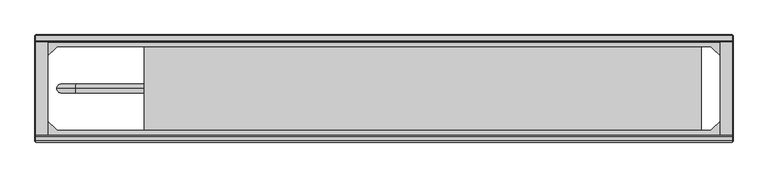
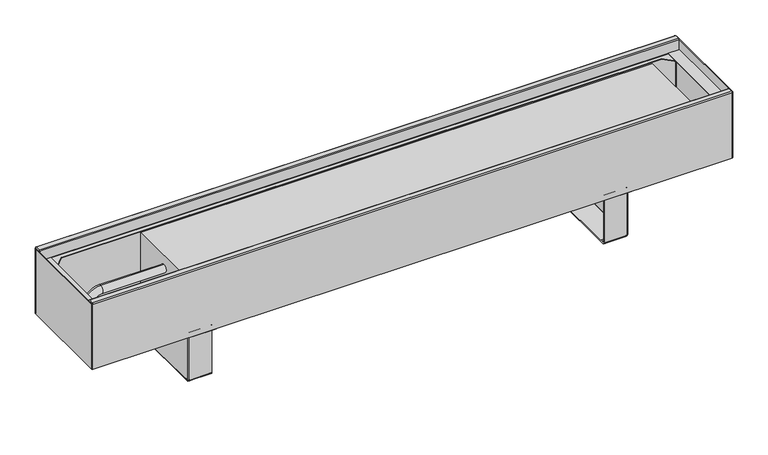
"""IFC4 building model written with IfcOpenShell, lengths in millimetres: proxy geometry, TECHNO_Конвектор напольный_Vita KPZ 185 : KPZ 185-130."""

from ifc_helpers import new_model, si_unit, point, frame, origin, place, context, project, spatial, polyline, circle_curve, ellipse_curve, trimmed, outline, extrude, source, transform, mapped, element, save
from ifc_brep_helpers import plane_surface, cylinder_surface, revolved_surface, advanced_brep


def mechanical_equipment_933cd87b(model_context):
    return source(origin(), model_context, "Body", "SolidModel", [
        advanced_brep(
        [(409.7, -116.8, 1.5), (409.7, -114.5, 3.8), (409.7, -114.5, 4.9), (409.7, -116.0, 4.9), (409.7, -116.0, 3.8), (409.7, -116.8, 3.0), (409.7, -124.5, 3.0), (409.7, -124.5, 1.5), (409.7, -117.6, 1.5), (409.7, -114.5, 97.7), (409.7, -113.7, 98.5), (409.7, -101.0, 98.5), (409.7, -101.0, 100.0), (409.7, -113.7, 100.0), (409.7, -116.0, 97.7), (409.7, -116.0, 95.5), (409.7, -114.5, 95.5), (409.7, -270.5, 3.8), (409.7, -268.2, 1.5), (409.7, -267.4, 1.5), (409.7, -260.5, 1.5), (409.7, -260.5, 3.0), (409.7, -268.2, 3.0), (409.7, -269.0, 3.8), (409.7, -269.0, 4.9), (409.7, -270.5, 4.9), (409.7, -269.0, 97.7), (409.7, -271.3, 100.0), (409.7, -284.0, 100.0), (409.7, -284.0, 98.5), (409.7, -271.3, 98.5), (409.7, -270.5, 97.7), (409.7, -270.5, 95.5), (409.7, -269.0, 95.5), (367.0, -270.5, 97.7), (367.0, -271.3, 98.5), (367.0, -284.0, 98.5), (367.0, -284.0, 100.0), (367.0, -271.3, 100.0), (367.0, -269.0, 97.7), (367.0, -269.0, 3.8), (367.0, -268.2, 3.0), (367.0, -260.5, 3.0), (367.0, -260.5, 1.5), (367.0, -124.5, 1.5), (367.0, -124.5, 3.0), (367.0, -116.8, 3.0), (367.0, -116.0, 3.8), (367.0, -116.0, 97.7), (367.0, -113.7, 100.0), (367.0, -101.0, 100.0), (367.0, -101.0, 98.5), (367.0, -113.7, 98.5), (367.0, -114.5, 97.7), (367.0, -114.5, 3.8), (367.0, -116.8, 1.5), (367.0, -117.6, 1.5), (367.0, -117.6, 0.0), (367.0, -267.4, 0.0), (367.0, -267.4, 1.5), (367.0, -268.2, 1.5), (367.0, -270.5, 3.8), (410.5, -116.8, 95.5), (410.5, -268.2, 95.5), (412.0, -268.2, 95.5), (412.0, -116.8, 95.5), (412.0, -116.8, 4.9), (412.0, -117.6, 4.9), (410.5, -117.6, 4.9), (410.5, -116.8, 4.9), (410.5, -268.2, 4.9), (410.5, -267.4, 4.9), (412.0, -267.4, 4.9), (412.0, -268.2, 4.9), (410.5, -117.6, 2.3), (410.5, -267.4, 2.3), (411.9999999, -267.4, 2.3), (412.0, -117.6, 2.3), (409.7, -117.6, 0.0), (409.7, -267.4, 0.0)],
        [
            (0, 1, circle_curve(frame((409.7, -116.8, 3.8), z_axis=(1.0, 0.0, 0.0), x_axis=(0.0, -1.0, 0.0)), 2.3)),
            (1, 2),
            (2, 3),
            (3, 4),
            (4, 5, circle_curve(frame((409.7, -116.8, 3.8), z_axis=(-1.0, 0.0, 0.0), x_axis=(0.0, -1.0, 0.0)), 0.8)),
            (5, 6),
            (6, 7),
            (7, 8),
            (8, 0),
            (9, 10, circle_curve(frame((409.7, -113.7, 97.7), z_axis=(-1.0, 0.0, 0.0), x_axis=(0.0, -1.0, 0.0)), 0.8)),
            (10, 11),
            (11, 12),
            (12, 13),
            (13, 14, circle_curve(frame((409.7, -113.7, 97.7), z_axis=(1.0, 0.0, 0.0), x_axis=(0.0, -1.0, 0.0)), 2.3)),
            (14, 15),
            (15, 16),
            (16, 9),
            (17, 18, circle_curve(frame((409.7, -268.2, 3.8), z_axis=(1.0, 0.0, 0.0), x_axis=(0.0, -1.0, 0.0)), 2.3)),
            (18, 19),
            (19, 20),
            (20, 21),
            (21, 22),
            (22, 23, circle_curve(frame((409.7, -268.2, 3.8), z_axis=(-1.0, 0.0, 0.0), x_axis=(0.0, -1.0, 0.0)), 0.8)),
            (23, 24),
            (24, 25),
            (25, 17),
            (26, 27, circle_curve(frame((409.7, -271.3, 97.7), z_axis=(1.0, 0.0, 0.0), x_axis=(0.0, -1.0, 0.0)), 2.3)),
            (27, 28),
            (28, 29),
            (29, 30),
            (30, 31, circle_curve(frame((409.7, -271.3, 97.7), z_axis=(-1.0, 0.0, 0.0), x_axis=(0.0, -1.0, 0.0)), 0.8)),
            (31, 32),
            (32, 33),
            (33, 26),
            (34, 35, circle_curve(frame((367.0, -271.3, 97.7), z_axis=(1.0, 0.0, 0.0), x_axis=(0.0, -1.0, 0.0)), 0.8)),
            (35, 36),
            (36, 37),
            (37, 38),
            (38, 39, circle_curve(frame((367.0, -271.3, 97.7), z_axis=(-1.0, 0.0, 0.0), x_axis=(0.0, -1.0, 0.0)), 2.3)),
            (39, 40),
            (40, 41, circle_curve(frame((367.0, -268.2, 3.8), z_axis=(1.0, 0.0, 0.0), x_axis=(0.0, -1.0, 0.0)), 0.8)),
            (41, 42),
            (42, 43),
            (43, 44),
            (44, 45),
            (45, 46),
            (46, 47, circle_curve(frame((367.0, -116.8, 3.8), z_axis=(1.0, 0.0, 0.0), x_axis=(0.0, -1.0, 0.0)), 0.8)),
            (47, 48),
            (48, 49, circle_curve(frame((367.0, -113.7, 97.7), z_axis=(-1.0, 0.0, 0.0), x_axis=(0.0, -1.0, 0.0)), 2.3)),
            (49, 50),
            (50, 51),
            (51, 52),
            (52, 53, circle_curve(frame((367.0, -113.7, 97.7), z_axis=(1.0, 0.0, 0.0), x_axis=(0.0, -1.0, 0.0)), 0.8)),
            (53, 54),
            (54, 55, circle_curve(frame((367.0, -116.8, 3.8), z_axis=(-1.0, 0.0, 0.0), x_axis=(0.0, -1.0, 0.0)), 2.3)),
            (55, 56),
            (56, 57),
            (57, 58),
            (58, 59),
            (59, 60),
            (60, 61, circle_curve(frame((367.0, -268.2, 3.8), z_axis=(-1.0, 0.0, 0.0), x_axis=(0.0, -1.0, 0.0)), 2.3)),
            (61, 34),
            (30, 35),
            (34, 31),
            (29, 36),
            (28, 37),
            (27, 38),
            (26, 39),
            (33, 24),
            (23, 40),
            (22, 41),
            (5, 46),
            (45, 6),
            (4, 47),
            (3, 15),
            (14, 48),
            (13, 49),
            (12, 50),
            (11, 51),
            (10, 52),
            (9, 53),
            (16, 2),
            (1, 54),
            (0, 55),
            (8, 56),
            (17, 61),
            (60, 18),
            (25, 32),
            (21, 42),
            (20, 43),
            (59, 19),
            (44, 7),
            (15, 62, circle_curve(frame((409.7, -116.8, 95.5), z_axis=(0.0, 0.0, -1.0), x_axis=(-1.0, 0.0, 0.0)), 0.8)),
            (62, 63),
            (63, 33, circle_curve(frame((409.7, -268.2, 95.5), z_axis=(0.0, 0.0, -1.0), x_axis=(-1.0, 0.0, 0.0)), 0.8)),
            (32, 64, circle_curve(frame((409.7, -268.2, 95.5), z_axis=(0.0, 0.0, 1.0), x_axis=(-1.0, 0.0, 0.0)), 2.3)),
            (64, 65),
            (65, 16, circle_curve(frame((409.7, -116.8, 95.5), z_axis=(0.0, 0.0, 1.0), x_axis=(-1.0, 0.0, 0.0)), 2.3)),
            (2, 66, circle_curve(frame((409.7, -116.8, 4.9), z_axis=(0.0, 0.0, -1.0), x_axis=(-1.0, 0.0, 0.0)), 2.3)),
            (66, 67),
            (67, 68),
            (68, 69),
            (69, 3, circle_curve(frame((409.7, -116.8, 4.9), z_axis=(0.0, 0.0, 1.0), x_axis=(-1.0, 0.0, 0.0)), 0.8)),
            (24, 70, circle_curve(frame((409.7, -268.2, 4.9), z_axis=(0.0, 0.0, 1.0), x_axis=(-1.0, 0.0, 0.0)), 0.8)),
            (70, 71),
            (71, 72),
            (72, 73),
            (73, 25, circle_curve(frame((409.7, -268.2, 4.9), z_axis=(0.0, 0.0, -1.0), x_axis=(-1.0, 0.0, 0.0)), 2.3)),
            (69, 62),
            (68, 74),
            (74, 75),
            (75, 71),
            (70, 63),
            (64, 73),
            (72, 76),
            (76, 77),
            (77, 67),
            (66, 65),
            (8, 74, circle_curve(frame((409.7, -117.6, 2.3), z_axis=(0.0, -1.0, 0.0), x_axis=(-1.0, 0.0, 0.0)), 0.8)),
            (77, 78, circle_curve(frame((409.7, -117.6, 2.3), z_axis=(0.0, 1.0, 0.0), x_axis=(-1.0, 0.0, 0.0)), 2.3)),
            (78, 57),
            (58, 79),
            (79, 76, circle_curve(frame((409.7, -267.4, 2.3), z_axis=(0.0, -1.0, 0.0), x_axis=(-1.0, 0.0, 0.0)), 2.3)),
            (75, 19, circle_curve(frame((409.7, -267.4, 2.3), z_axis=(0.0, 1.0, 0.0), x_axis=(-1.0, 0.0, 0.0)), 0.8)),
            (20, 7),
            (79, 78),
        ],
        [
            plane_surface(frame((409.7, -272.1, 97.7), z_axis=(1.0, 0.0, 0.0), x_axis=(0.0, 0.0, 1.0))),
            plane_surface(frame((367.0, -272.1, 97.7), z_axis=(-1.0, 0.0, 0.0), x_axis=(0.0, 0.0, -1.0))),
            revolved_surface(polyline([(409.7, -272.1, 97.7), (367.0, -272.1, 97.7)]), (409.7, -271.3, 97.7), (1.0, 0.0, 0.0)),
            plane_surface(frame((367.0, -271.3, 98.5), z_axis=(0.0, 0.0, -1.0), x_axis=(1.0, 0.0, 0.0))),
            plane_surface(frame((367.0, -284.0, 98.5), z_axis=(0.0, -1.0, 0.0), x_axis=(1.0, 0.0, 0.0))),
            plane_surface(frame((367.0, -284.0, 100.0), z_axis=(0.0, 0.0, 1.0), x_axis=(1.0, 0.0, 0.0))),
            cylinder_surface(frame((409.7, -271.3, 97.7), z_axis=(-1.0, 0.0, 0.0), x_axis=(0.0, -1.0, 0.0)), 2.3),
            plane_surface(frame((367.0, -269.0, 97.7), z_axis=(0.0, 1.0, 3.692083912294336e-12), x_axis=(1.0, 0.0, 0.0))),
            revolved_surface(polyline([(409.7, -269.0, 3.8), (367.0, -269.0, 3.8)]), (409.7, -268.2, 3.8), (1.0, 0.0, 0.0)),
            plane_surface(frame((367.0, -124.5, 3.0), z_axis=(0.0, 0.0, 1.0), x_axis=(1.0, 0.0, 0.0))),
            revolved_surface(polyline([(409.7, -117.6, 3.8), (367.0, -117.6, 3.8)]), (412.0, -116.8, 3.8), (1.0, 0.0, 0.0)),
            plane_surface(frame((367.0, -116.0, 3.8), z_axis=(0.0, -1.0, 0.0), x_axis=(1.0, 0.0, 0.0))),
            cylinder_surface(frame((412.0, -113.7, 97.7), z_axis=(-1.0, 0.0, 0.0), x_axis=(0.0, -1.0, 0.0)), 2.3),
            plane_surface(frame((367.0, -113.7, 100.0), z_axis=(0.0, 0.0, 1.0), x_axis=(1.0, 0.0, 0.0))),
            plane_surface(frame((367.0, -101.0, 100.0), z_axis=(0.0, 1.0, 0.0), x_axis=(1.0, 0.0, 0.0))),
            plane_surface(frame((367.0, -101.0, 98.5), z_axis=(0.0, 0.0, -1.0), x_axis=(1.0, 0.0, 0.0))),
            revolved_surface(polyline([(409.7, -114.5, 97.7), (367.0, -114.5, 97.7)]), (412.0, -113.7, 97.7), (1.0, 0.0, 0.0)),
            plane_surface(frame((367.0, -114.5, 97.7), z_axis=(0.0, 1.0, 0.0), x_axis=(1.0, 0.0, 0.0))),
            cylinder_surface(frame((412.0, -116.8, 3.8), z_axis=(-1.0, 0.0, 0.0), x_axis=(0.0, -1.0, 0.0)), 2.3),
            plane_surface(frame((367.0, -116.8, 1.5), z_axis=(0.0, 0.0, -1.0), x_axis=(1.0, 0.0, 0.0))),
            cylinder_surface(frame((409.7, -268.2, 3.8), z_axis=(-1.0, 0.0, 0.0), x_axis=(0.0, -1.0, 0.0)), 2.3),
            plane_surface(frame((367.0, -270.5, 3.8), z_axis=(0.0, -1.0, 0.0), x_axis=(1.0, 0.0, 0.0))),
            plane_surface(frame((367.0, -268.2, 3.0), z_axis=(0.0, 0.0, 1.0), x_axis=(1.0, 0.0, 0.0))),
            plane_surface(frame((367.0, -260.5, 3.0), z_axis=(0.0, 1.0, 0.0), x_axis=(1.0, 0.0, 0.0))),
            plane_surface(frame((367.0, -260.5, 1.5), z_axis=(0.0, 0.0, -1.0), x_axis=(1.0, 0.0, 0.0))),
            plane_surface(frame((367.0, -124.5, 1.5), z_axis=(0.0, -1.0, 0.0), x_axis=(1.0, 0.0, 0.0))),
            plane_surface(frame((409.7, -116.0, 95.5), z_axis=(0.0, 0.0, 1.0), x_axis=(0.0, -1.0, 0.0))),
            plane_surface(frame((409.7, -116.0, 4.9), z_axis=(0.0, 0.0, -1.0), x_axis=(0.0, 1.0, 0.0))),
            revolved_surface(polyline([(408.9, -116.8, 4.9), (408.9, -116.8, 95.5)]), (409.7, -116.8, 4.9), (0.0, 0.0, -1.0)),
            plane_surface(frame((410.5, -116.8, 95.5), z_axis=(-1.0, 0.0, 0.0), x_axis=(0.0, 0.0, -1.0))),
            plane_surface(frame((412.0, -117.6, 95.5), z_axis=(1.0, -4.322665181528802e-10, 0.0), x_axis=(0.0, 0.0, -1.0))),
            cylinder_surface(frame((409.7, -116.8, 4.9), z_axis=(0.0, 0.0, 1.0), x_axis=(-1.0, 0.0, 0.0)), 2.3),
            cylinder_surface(frame((409.7, -268.2, 0.0), z_axis=(0.0, 0.0, 1.0), x_axis=(-1.0, 0.0, 0.0)), 2.3),
            revolved_surface(polyline([(408.9, -268.2, 4.9), (408.9, -268.2, 95.5)]), (409.7, -268.2, 0.0), (0.0, 0.0, -1.0)),
            plane_surface(frame((367.0, -117.6, 1.5), z_axis=(0.0, 1.0, 0.0), x_axis=(0.0, 0.0, 1.0))),
            plane_surface(frame((367.0, -267.4, 1.5), z_axis=(0.0, -1.0, 0.0), x_axis=(0.0, 0.0, -1.0))),
            plane_surface(frame((367.0, -117.6, 1.5), z_axis=(0.0, 0.0, 1.0), x_axis=(0.0, -1.0, 0.0))),
            revolved_surface(polyline([(408.9, -267.4, 2.3), (408.9, -117.6, 2.3)]), (409.7, -267.4, 2.3), (0.0, -1.0, 0.0)),
            cylinder_surface(frame((409.7, -267.4, 2.3), z_axis=(0.0, 1.0, 0.0), x_axis=(-1.0, 0.0, 0.0)), 2.3),
            plane_surface(frame((409.7, -117.6, 0.0), z_axis=(0.0, 0.0, -1.0), x_axis=(0.0, -1.0, 0.0))),
        ],
        [
            (0, [[1, 2, 3, 4, 5, 6, 7, 8, 9]]),
            (0, [[10, 11, 12, 13, 14, 15, 16, 17]]),
            (0, [[18, 19, 20, 21, 22, 23, 24, 25, 26]]),
            (0, [[27, 28, 29, 30, 31, 32, 33, 34]]),
            (1, [[35, 36, 37, 38, 39, 40, 41, 42, 43, 44, 45, 46, 47, 48, 49, 50, 51, 52, 53, 54, 55, 56, 57, 58, 59, 60, 61, 62]]),
            (2, [[-31, 63, -35, 64]]),
            (3, [[-30, 65, -36, -63]]),
            (4, [[-29, 66, -37, -65]]),
            (5, [[-28, 67, -38, -66]]),
            (6, [[-27, 68, -39, -67]]),
            (7, [[-40, -68, -34, 69, -24, 70]]),
            (8, [[-23, 71, -41, -70]]),
            (9, [[-6, 72, -46, 73]]),
            (10, [[-5, 74, -47, -72]]),
            (11, [[-48, -74, -4, 75, -15, 76]]),
            (12, [[-14, 77, -49, -76]]),
            (13, [[-13, 78, -50, -77]]),
            (14, [[-12, 79, -51, -78]]),
            (15, [[-11, 80, -52, -79]]),
            (16, [[-10, 81, -53, -80]]),
            (17, [[-54, -81, -17, 82, -2, 83]]),
            (18, [[-1, 84, -55, -83]]),
            (19, [[-84, -9, 85, -56]]),
            (20, [[-18, 86, -61, 87]]),
            (21, [[-62, -86, -26, 88, -32, -64]]),
            (22, [[-22, 89, -42, -71]]),
            (23, [[-21, 90, -43, -89]]),
            (24, [[-87, -60, 91, -19]]),
            (25, [[-7, -73, -45, 92]]),
            (26, [[93, 94, 95, -33, 96, 97, 98, -16]]),
            (27, [[99, 100, 101, 102, 103, -3]]),
            (27, [[104, 105, 106, 107, 108, -25]]),
            (28, [[-93, -75, -103, 109]]),
            (29, [[-94, -109, -102, 110, 111, 112, -105, 113]]),
            (30, [[-97, 114, -107, 115, 116, 117, -100, 118]]),
            (31, [[-98, -118, -99, -82]]),
            (32, [[-96, -88, -108, -114]]),
            (33, [[-95, -113, -104, -69]]),
            (34, [[-57, -85, 119, -110, -101, -117, 120, 121]]),
            (35, [[122, 123, -115, -106, -112, 124, -91, -59]]),
            (36, [[125, -92, -44, -90]]),
            (37, [[-119, -8, -125, -20, -124, -111]]),
            (38, [[-120, -116, -123, 126]]),
            (39, [[-121, -126, -122, -58]]),
        ],
    ),
        advanced_brep(
        [(-409.7, -268.2, 1.5), (-409.7, -270.5, 3.8), (-409.7, -270.5, 4.9), (-409.7, -269.0, 4.9), (-409.7, -269.0, 3.8), (-409.7, -268.2, 3.0), (-409.7, -260.5, 3.0), (-409.7, -260.5, 1.5), (-409.7, -267.4, 1.5), (-409.7, -270.5, 97.7), (-409.7, -271.3, 98.5), (-409.7, -284.0, 98.5), (-409.7, -284.0, 100.0), (-409.7, -271.3, 100.0), (-409.7, -269.0, 97.7), (-409.7, -269.0, 95.5), (-409.7, -270.5, 95.5), (-409.7, -114.5, 3.8), (-409.7, -116.8, 1.5), (-409.7, -117.6, 1.5), (-409.7, -124.5, 1.5), (-409.7, -124.5, 3.0), (-409.7, -116.8, 3.0), (-409.7, -116.0, 3.8), (-409.7, -116.0, 4.9), (-409.7, -114.5, 4.9), (-409.7, -116.0, 97.7), (-409.7, -113.7, 100.0), (-409.7, -101.0, 100.0), (-409.7, -101.0, 98.5), (-409.7, -113.7, 98.5), (-409.7, -114.5, 97.7), (-409.7, -114.5, 95.5), (-409.7, -116.0, 95.5), (-367.0, -114.5, 97.7), (-367.0, -113.7, 98.5), (-367.0, -101.0, 98.5), (-367.0, -101.0, 100.0), (-367.0, -113.7, 100.0), (-367.0, -116.0, 97.7), (-367.0, -116.0, 3.8), (-367.0, -116.8, 3.0), (-367.0, -124.5, 3.0), (-367.0, -124.5, 1.5), (-367.0, -260.5, 1.5), (-367.0, -260.5, 3.0), (-367.0, -268.2, 3.0), (-367.0, -269.0, 3.8), (-367.0, -269.0, 97.7), (-367.0, -271.3, 100.0), (-367.0, -284.0, 100.0), (-367.0, -284.0, 98.5), (-367.0, -271.3, 98.5), (-367.0, -270.5, 97.7), (-367.0, -270.5, 3.8), (-367.0, -268.2, 1.5), (-367.0, -267.4, 1.5), (-367.0, -267.4, 0.0), (-367.0, -117.6, 0.0), (-367.0, -117.6, 1.5), (-367.0, -116.8, 1.5), (-367.0, -114.5, 3.8), (-410.5, -268.2, 95.5), (-410.5, -116.8, 95.5), (-412.0, -116.8, 95.5), (-412.0, -268.2, 95.5), (-412.0, -268.2, 4.9), (-412.0, -267.4, 4.9), (-410.5, -267.4, 4.9), (-410.5, -268.2, 4.9), (-410.5, -116.8, 4.9), (-410.5, -117.6, 4.9), (-412.0, -117.6, 4.9), (-412.0, -116.8, 4.9), (-410.5, -267.4, 2.3), (-410.5, -117.6, 2.3), (-411.9999999, -117.6, 2.3), (-412.0, -267.4, 2.3), (-409.7, -267.4, 0.0), (-409.7, -117.6, 0.0)],
        [
            (0, 1, circle_curve(frame((-409.7, -268.2, 3.8), z_axis=(-1.0, 0.0, 0.0), x_axis=(0.0, 1.0, 0.0)), 2.3)),
            (1, 2),
            (2, 3),
            (3, 4),
            (4, 5, circle_curve(frame((-409.7, -268.2, 3.8), z_axis=(1.0, 0.0, 0.0), x_axis=(0.0, 1.0, 0.0)), 0.8)),
            (5, 6),
            (6, 7),
            (7, 8),
            (8, 0),
            (9, 10, circle_curve(frame((-409.7, -271.3, 97.7), z_axis=(1.0, 0.0, 0.0), x_axis=(0.0, 1.0, 0.0)), 0.8)),
            (10, 11),
            (11, 12),
            (12, 13),
            (13, 14, circle_curve(frame((-409.7, -271.3, 97.7), z_axis=(-1.0, 0.0, 0.0), x_axis=(0.0, 1.0, 0.0)), 2.3)),
            (14, 15),
            (15, 16),
            (16, 9),
            (17, 18, circle_curve(frame((-409.7, -116.8, 3.8), z_axis=(-1.0, 0.0, 0.0), x_axis=(0.0, 1.0, 0.0)), 2.3)),
            (18, 19),
            (19, 20),
            (20, 21),
            (21, 22),
            (22, 23, circle_curve(frame((-409.7, -116.8, 3.8), z_axis=(1.0, 0.0, 0.0), x_axis=(0.0, 1.0, 0.0)), 0.8)),
            (23, 24),
            (24, 25),
            (25, 17),
            (26, 27, circle_curve(frame((-409.7, -113.7, 97.7), z_axis=(-1.0, 0.0, 0.0), x_axis=(0.0, 1.0, 0.0)), 2.3)),
            (27, 28),
            (28, 29),
            (29, 30),
            (30, 31, circle_curve(frame((-409.7, -113.7, 97.7), z_axis=(1.0, 0.0, 0.0), x_axis=(0.0, 1.0, 0.0)), 0.8)),
            (31, 32),
            (32, 33),
            (33, 26),
            (34, 35, circle_curve(frame((-367.0, -113.7, 97.7), z_axis=(-1.0, 0.0, 0.0), x_axis=(0.0, 1.0, 0.0)), 0.8)),
            (35, 36),
            (36, 37),
            (37, 38),
            (38, 39, circle_curve(frame((-367.0, -113.7, 97.7), z_axis=(1.0, 0.0, 0.0), x_axis=(0.0, 1.0, 0.0)), 2.3)),
            (39, 40),
            (40, 41, circle_curve(frame((-367.0, -116.8, 3.8), z_axis=(-1.0, 0.0, 0.0), x_axis=(0.0, 1.0, 0.0)), 0.8)),
            (41, 42),
            (42, 43),
            (43, 44),
            (44, 45),
            (45, 46),
            (46, 47, circle_curve(frame((-367.0, -268.2, 3.8), z_axis=(-1.0, 0.0, 0.0), x_axis=(0.0, 1.0, 0.0)), 0.8)),
            (47, 48),
            (48, 49, circle_curve(frame((-367.0, -271.3, 97.7), z_axis=(1.0, 0.0, 0.0), x_axis=(0.0, 1.0, 0.0)), 2.3)),
            (49, 50),
            (50, 51),
            (51, 52),
            (52, 53, circle_curve(frame((-367.0, -271.3, 97.7), z_axis=(-1.0, 0.0, 0.0), x_axis=(0.0, 1.0, 0.0)), 0.8)),
            (53, 54),
            (54, 55, circle_curve(frame((-367.0, -268.2, 3.8), z_axis=(1.0, 0.0, 0.0), x_axis=(0.0, 1.0, 0.0)), 2.3)),
            (55, 56),
            (56, 57),
            (57, 58),
            (58, 59),
            (59, 60),
            (60, 61, circle_curve(frame((-367.0, -116.8, 3.8), z_axis=(1.0, 0.0, 0.0), x_axis=(0.0, 1.0, 0.0)), 2.3)),
            (61, 34),
            (30, 35),
            (34, 31),
            (29, 36),
            (28, 37),
            (27, 38),
            (26, 39),
            (33, 24),
            (23, 40),
            (22, 41),
            (5, 46),
            (45, 6),
            (4, 47),
            (3, 15),
            (14, 48),
            (13, 49),
            (12, 50),
            (11, 51),
            (10, 52),
            (9, 53),
            (16, 2),
            (1, 54),
            (0, 55),
            (8, 56),
            (17, 61),
            (60, 18),
            (25, 32),
            (21, 42),
            (20, 43),
            (59, 19),
            (44, 7),
            (15, 62, circle_curve(frame((-409.7, -268.2, 95.5), z_axis=(0.0, 0.0, -1.0), x_axis=(1.0, 0.0, 0.0)), 0.8)),
            (62, 63),
            (63, 33, circle_curve(frame((-409.7, -116.8, 95.5), z_axis=(0.0, 0.0, -1.0), x_axis=(1.0, 0.0, 0.0)), 0.8)),
            (32, 64, circle_curve(frame((-409.7, -116.8, 95.5), z_axis=(0.0, 0.0, 1.0), x_axis=(1.0, 0.0, 0.0)), 2.3)),
            (64, 65),
            (65, 16, circle_curve(frame((-409.7, -268.2, 95.5), z_axis=(0.0, 0.0, 1.0), x_axis=(1.0, 0.0, 0.0)), 2.3)),
            (2, 66, circle_curve(frame((-409.7, -268.2, 4.9), z_axis=(0.0, 0.0, -1.0), x_axis=(1.0, 0.0, 0.0)), 2.3)),
            (66, 67),
            (67, 68),
            (68, 69),
            (69, 3, circle_curve(frame((-409.7, -268.2, 4.9), z_axis=(0.0, 0.0, 1.0), x_axis=(1.0, 0.0, 0.0)), 0.8)),
            (24, 70, circle_curve(frame((-409.7, -116.8, 4.9), z_axis=(0.0, 0.0, 1.0), x_axis=(1.0, 0.0, 0.0)), 0.8)),
            (70, 71),
            (71, 72),
            (72, 73),
            (73, 25, circle_curve(frame((-409.7, -116.8, 4.9), z_axis=(0.0, 0.0, -1.0), x_axis=(1.0, 0.0, 0.0)), 2.3)),
            (69, 62),
            (68, 74),
            (74, 75),
            (75, 71),
            (70, 63),
            (64, 73),
            (72, 76),
            (76, 77),
            (77, 67),
            (66, 65),
            (8, 74, circle_curve(frame((-409.7, -267.4, 2.3), z_axis=(0.0, 1.0, 0.0), x_axis=(1.0, 0.0, 0.0)), 0.8)),
            (77, 78, circle_curve(frame((-409.7, -267.4, 2.3), z_axis=(0.0, -1.0, 0.0), x_axis=(1.0, 0.0, 0.0)), 2.3)),
            (78, 57),
            (58, 79),
            (79, 76, circle_curve(frame((-409.7, -117.6, 2.3), z_axis=(0.0, 1.0, 0.0), x_axis=(1.0, 0.0, 0.0)), 2.3)),
            (75, 19, circle_curve(frame((-409.7, -117.6, 2.3), z_axis=(0.0, -1.0, 0.0), x_axis=(1.0, 0.0, 0.0)), 0.8)),
            (20, 7),
            (79, 78),
        ],
        [
            plane_surface(frame((-409.7, -112.9, 97.7), z_axis=(-1.0, 0.0, 0.0), x_axis=(0.0, 0.0, 1.0))),
            plane_surface(frame((-367.0, -112.9, 97.7), z_axis=(1.0, 0.0, 0.0), x_axis=(0.0, 0.0, -1.0))),
            revolved_surface(polyline([(-409.7, -112.9, 97.7), (-367.0, -112.9, 97.7)]), (-409.7, -113.7, 97.7), (-1.0, 0.0, 0.0)),
            plane_surface(frame((-367.0, -113.7, 98.5), z_axis=(0.0, 0.0, -1.0), x_axis=(-1.0, 0.0, 0.0))),
            plane_surface(frame((-367.0, -101.0, 98.5), z_axis=(0.0, 1.0, 0.0), x_axis=(-1.0, 0.0, 0.0))),
            plane_surface(frame((-367.0, -101.0, 100.0), z_axis=(0.0, 0.0, 1.0), x_axis=(-1.0, 0.0, 0.0))),
            cylinder_surface(frame((-409.7, -113.7, 97.7), z_axis=(1.0, 0.0, 0.0), x_axis=(0.0, 1.0, 0.0)), 2.3),
            plane_surface(frame((-367.0, -116.0, 97.7), z_axis=(0.0, -1.0, 3.692083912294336e-12), x_axis=(-1.0, 0.0, 0.0))),
            revolved_surface(polyline([(-409.7, -116.0, 3.8), (-367.0, -116.0, 3.8)]), (-409.7, -116.8, 3.8), (-1.0, 0.0, 0.0)),
            plane_surface(frame((-367.0, -260.5, 3.0), z_axis=(0.0, 0.0, 1.0), x_axis=(-1.0, 0.0, 0.0))),
            revolved_surface(polyline([(-409.7, -267.4, 3.8), (-367.0, -267.4, 3.8)]), (-412.0, -268.2, 3.8), (-1.0, 0.0, 0.0)),
            plane_surface(frame((-367.0, -269.0, 3.8), z_axis=(0.0, 1.0, 0.0), x_axis=(-1.0, 0.0, 0.0))),
            cylinder_surface(frame((-412.0, -271.3, 97.7), z_axis=(1.0, 0.0, 0.0), x_axis=(0.0, 1.0, 0.0)), 2.3),
            plane_surface(frame((-367.0, -271.3, 100.0), z_axis=(0.0, 0.0, 1.0), x_axis=(-1.0, 0.0, 0.0))),
            plane_surface(frame((-367.0, -284.0, 100.0), z_axis=(0.0, -1.0, 0.0), x_axis=(-1.0, 0.0, 0.0))),
            plane_surface(frame((-367.0, -284.0, 98.5), z_axis=(0.0, 0.0, -1.0), x_axis=(-1.0, 0.0, 0.0))),
            revolved_surface(polyline([(-409.7, -270.5, 97.7), (-367.0, -270.5, 97.7)]), (-412.0, -271.3, 97.7), (-1.0, 0.0, 0.0)),
            plane_surface(frame((-367.0, -270.5, 97.7), z_axis=(0.0, -1.0, 0.0), x_axis=(-1.0, 0.0, 0.0))),
            cylinder_surface(frame((-412.0, -268.2, 3.8), z_axis=(1.0, 0.0, 0.0), x_axis=(0.0, 1.0, 0.0)), 2.3),
            plane_surface(frame((-367.0, -268.2, 1.5), z_axis=(0.0, 0.0, -1.0), x_axis=(-1.0, 0.0, 0.0))),
            cylinder_surface(frame((-409.7, -116.8, 3.8), z_axis=(1.0, 0.0, 0.0), x_axis=(0.0, 1.0, 0.0)), 2.3),
            plane_surface(frame((-367.0, -114.5, 3.8), z_axis=(0.0, 1.0, 0.0), x_axis=(-1.0, 0.0, 0.0))),
            plane_surface(frame((-367.0, -116.8, 3.0), z_axis=(0.0, 0.0, 1.0), x_axis=(-1.0, 0.0, 0.0))),
            plane_surface(frame((-367.0, -124.5, 3.0), z_axis=(0.0, -1.0, 0.0), x_axis=(-1.0, 0.0, 0.0))),
            plane_surface(frame((-367.0, -124.5, 1.5), z_axis=(0.0, 0.0, -1.0), x_axis=(-1.0, 0.0, 0.0))),
            plane_surface(frame((-367.0, -260.5, 1.5), z_axis=(0.0, 1.0, 0.0), x_axis=(-1.0, 0.0, 0.0))),
            plane_surface(frame((-409.7, -269.0, 95.5), z_axis=(0.0, 0.0, 1.0), x_axis=(0.0, 1.0, 0.0))),
            plane_surface(frame((-409.7, -269.0, 4.9), z_axis=(0.0, 0.0, -1.0), x_axis=(0.0, -1.0, 0.0))),
            revolved_surface(polyline([(-408.9, -268.2, 4.9), (-408.9, -268.2, 95.5)]), (-409.7, -268.2, 4.9), (0.0, 0.0, -1.0)),
            plane_surface(frame((-410.5, -268.2, 95.5), z_axis=(1.0, 0.0, 0.0), x_axis=(0.0, 0.0, -1.0))),
            plane_surface(frame((-412.0, -267.4, 95.5), z_axis=(-1.0, 4.3226335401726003e-10, 0.0), x_axis=(0.0, 0.0, -1.0))),
            cylinder_surface(frame((-409.7, -268.2, 4.9), z_axis=(0.0, 0.0, 1.0), x_axis=(1.0, 0.0, 0.0)), 2.3),
            cylinder_surface(frame((-409.7, -116.8, 0.0), z_axis=(0.0, 0.0, 1.0), x_axis=(1.0, 0.0, 0.0)), 2.3),
            revolved_surface(polyline([(-408.9, -116.8, 4.9), (-408.9, -116.8, 95.5)]), (-409.7, -116.8, 0.0), (0.0, 0.0, -1.0)),
            plane_surface(frame((-367.0, -267.4, 1.5), z_axis=(0.0, -1.0, 0.0), x_axis=(0.0, 0.0, 1.0))),
            plane_surface(frame((-367.0, -117.6, 1.5), z_axis=(0.0, 1.0, 0.0), x_axis=(0.0, 0.0, -1.0))),
            plane_surface(frame((-367.0, -267.4, 1.5), z_axis=(0.0, 0.0, 1.0), x_axis=(0.0, 1.0, 0.0))),
            revolved_surface(polyline([(-408.9, -117.6, 2.3), (-408.9, -267.4, 2.3)]), (-409.7, -117.6, 2.3), (0.0, 1.0, 0.0)),
            cylinder_surface(frame((-409.7, -117.6, 2.3), z_axis=(0.0, -1.0, 0.0), x_axis=(1.0, 0.0, 0.0)), 2.3),
            plane_surface(frame((-409.7, -267.4, 0.0), z_axis=(0.0, 0.0, -1.0), x_axis=(0.0, 1.0, 0.0))),
        ],
        [
            (0, [[1, 2, 3, 4, 5, 6, 7, 8, 9]]),
            (0, [[10, 11, 12, 13, 14, 15, 16, 17]]),
            (0, [[18, 19, 20, 21, 22, 23, 24, 25, 26]]),
            (0, [[27, 28, 29, 30, 31, 32, 33, 34]]),
            (1, [[35, 36, 37, 38, 39, 40, 41, 42, 43, 44, 45, 46, 47, 48, 49, 50, 51, 52, 53, 54, 55, 56, 57, 58, 59, 60, 61, 62]]),
            (2, [[-31, 63, -35, 64]]),
            (3, [[-30, 65, -36, -63]]),
            (4, [[-29, 66, -37, -65]]),
            (5, [[-28, 67, -38, -66]]),
            (6, [[-27, 68, -39, -67]]),
            (7, [[-40, -68, -34, 69, -24, 70]]),
            (8, [[-23, 71, -41, -70]]),
            (9, [[-6, 72, -46, 73]]),
            (10, [[-5, 74, -47, -72]]),
            (11, [[-48, -74, -4, 75, -15, 76]]),
            (12, [[-14, 77, -49, -76]]),
            (13, [[-13, 78, -50, -77]]),
            (14, [[-12, 79, -51, -78]]),
            (15, [[-11, 80, -52, -79]]),
            (16, [[-10, 81, -53, -80]]),
            (17, [[-54, -81, -17, 82, -2, 83]]),
            (18, [[-1, 84, -55, -83]]),
            (19, [[-84, -9, 85, -56]]),
            (20, [[-18, 86, -61, 87]]),
            (21, [[-62, -86, -26, 88, -32, -64]]),
            (22, [[-22, 89, -42, -71]]),
            (23, [[-21, 90, -43, -89]]),
            (24, [[-87, -60, 91, -19]]),
            (25, [[-7, -73, -45, 92]]),
            (26, [[93, 94, 95, -33, 96, 97, 98, -16]]),
            (27, [[99, 100, 101, 102, 103, -3]]),
            (27, [[104, 105, 106, 107, 108, -25]]),
            (28, [[-93, -75, -103, 109]]),
            (29, [[-94, -109, -102, 110, 111, 112, -105, 113]]),
            (30, [[-97, 114, -107, 115, 116, 117, -100, 118]]),
            (31, [[-98, -118, -99, -82]]),
            (32, [[-96, -88, -108, -114]]),
            (33, [[-95, -113, -104, -69]]),
            (34, [[-57, -85, 119, -110, -101, -117, 120, 121]]),
            (35, [[122, 123, -115, -106, -112, 124, -91, -59]]),
            (36, [[125, -92, -44, -90]]),
            (37, [[-119, -8, -125, -20, -124, -111]]),
            (38, [[-120, -116, -123, 126]]),
            (39, [[-121, -126, -122, -58]]),
        ],
    ),
        advanced_brep(
        [(-412.0, -192.5, 186.5), (-412.0, -192.5, 171.5), (-530.0, -192.5, 186.5), (-530.0, -192.5, 171.5), (-547.5, -192.5, 154.0), (-562.5, -192.5, 154.0), (-562.5, -192.5, 100.0), (-547.5, -192.5, 100.0)],
        [
            (0, 1, circle_curve(frame((-412.0, -192.5, 179.0), z_axis=(1.0, 0.0, 0.0), x_axis=(0.0, 0.0, -1.0)), 7.5)),
            (1, 0, circle_curve(frame((-412.0, -192.5, 179.0), z_axis=(1.0, 0.0, 0.0), x_axis=(0.0, 0.0, -1.0)), 7.5)),
            (0, 2),
            (2, 3, circle_curve(frame((-530.0, -192.5, 179.0), z_axis=(1.0, 0.0, 0.0), x_axis=(0.0, 0.0, -1.0)), 7.5)),
            (3, 1),
            (3, 2, circle_curve(frame((-530.0, -192.5, 179.0), z_axis=(1.0, 0.0, 0.0), x_axis=(0.0, 0.0, -1.0)), 7.5)),
            (4, 3, circle_curve(frame((-530.0, -192.5, 154.0), z_axis=(0.0, 1.0, 0.0), x_axis=(0.0, 0.0, 1.0)), 17.5)),
            (2, 5, circle_curve(frame((-530.0, -192.5, 154.0), z_axis=(0.0, -1.0, 0.0), x_axis=(0.0, 0.0, 1.0)), 32.5)),
            (5, 4, circle_curve(frame((-555.0, -192.5, 154.0), z_axis=(0.0, 0.0, 1.0), x_axis=(1.0, 0.0, 0.0)), 7.5)),
            (4, 5, circle_curve(frame((-555.0, -192.5, 154.0), z_axis=(0.0, 0.0, 1.0), x_axis=(1.0, 0.0, 0.0)), 7.5)),
            (6, 7, circle_curve(frame((-555.0, -192.5, 100.0), z_axis=(0.0, 0.0, -1.0), x_axis=(1.0, 0.0, 0.0)), 7.5)),
            (7, 6, circle_curve(frame((-555.0, -192.5, 100.0), z_axis=(0.0, 0.0, -1.0), x_axis=(1.0, 0.0, 0.0)), 7.5)),
            (5, 6),
            (7, 4),
        ],
        [
            plane_surface(frame((-412.0, -192.5, 179.0), z_axis=(1.0, 0.0, 0.0), x_axis=(0.0, -1.0, 0.0))),
            cylinder_surface(frame((-412.0, -192.5, 179.0), z_axis=(1.0, 0.0, 0.0), x_axis=(0.0, 0.0, -1.0)), 7.5),
            revolved_surface(trimmed(ellipse_curve(frame((-530.0, -192.5, 179.0), z_axis=(1.0, 0.0, 0.0), x_axis=(0.0, 0.0, -1.0)), 7.5, 7.5), [point((-530.0, -192.5, 186.5))], [point((-530.0, -192.5, 171.5))], True, "CARTESIAN"), (-530.0, -192.5, 154.0), (0.0, -1.0, 0.0)),
            revolved_surface(trimmed(ellipse_curve(frame((-530.0, -192.5, 179.0), z_axis=(1.0, 0.0, 0.0), x_axis=(0.0, 0.0, -1.0)), 7.5, 7.5), [point((-530.0, -192.5, 171.5))], [point((-530.0, -192.5, 186.5))], True, "CARTESIAN"), (-530.0, -192.5, 154.0), (0.0, -1.0, 0.0)),
            plane_surface(frame((-555.0, -192.5, 100.0), z_axis=(0.0, 0.0, -1.0), x_axis=(0.0, -1.0, 0.0))),
            cylinder_surface(frame((-555.0, -192.5, 154.0), z_axis=(0.0, 0.0, 1.0), x_axis=(1.0, 0.0, 0.0)), 7.5),
        ],
        [
            (0, [[1, 2]]),
            (1, [[-1, 3, 4, 5]]),
            (1, [[-2, -5, 6, -3]]),
            (2, [[7, -4, 8, 9]]),
            (3, [[-8, -6, -7, 10]]),
            (4, [[11, 12]]),
            (5, [[-9, 13, -12, 14]]),
            (5, [[-10, -14, -11, -13]]),
        ],
    ),
        advanced_brep(
        [(-412.0, -192.5, 136.5), (-412.0, -192.5, 121.5), (-512.5, -192.5, 136.5), (-497.5, -192.5, 121.5), (-512.5, -192.5, 100.0), (-497.5, -192.5, 100.0)],
        [
            (0, 1, circle_curve(frame((-412.0, -192.5, 129.0), z_axis=(1.0, 0.0, 0.0), x_axis=(0.0, 0.0, -1.0)), 7.5)),
            (1, 0, circle_curve(frame((-412.0, -192.5, 129.0), z_axis=(1.0, 0.0, 0.0), x_axis=(0.0, 0.0, -1.0)), 7.5)),
            (0, 2),
            (2, 3, ellipse_curve(frame((-505.0, -192.5, 129.0), z_axis=(0.7071067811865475, 0.0, 0.7071067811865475), x_axis=(0.7071067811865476, 0.0, -0.7071067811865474)), 10.6066017, 7.5)),
            (3, 1),
            (3, 2, ellipse_curve(frame((-505.0, -192.5, 129.0), z_axis=(0.7071067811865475, 0.0, 0.7071067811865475), x_axis=(0.7071067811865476, 0.0, -0.7071067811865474)), 10.6066017, 7.5)),
            (4, 5, circle_curve(frame((-505.0, -192.5, 100.0), z_axis=(0.0, 0.0, -1.0), x_axis=(1.0, 0.0, 0.0)), 7.5)),
            (5, 4, circle_curve(frame((-505.0, -192.5, 100.0), z_axis=(0.0, 0.0, -1.0), x_axis=(1.0, 0.0, 0.0)), 7.5)),
            (2, 4),
            (5, 3),
        ],
        [
            plane_surface(frame((-412.0, -192.5, 129.0), z_axis=(1.0, 0.0, 0.0), x_axis=(0.0, -1.0, 0.0))),
            cylinder_surface(frame((-412.0, -192.5, 129.0), z_axis=(1.0, 0.0, 0.0), x_axis=(0.0, 0.0, -1.0)), 7.5),
            plane_surface(frame((-505.0, -192.5, 100.0), z_axis=(0.0, 0.0, -1.0), x_axis=(0.0, -1.0, 0.0))),
            cylinder_surface(frame((-505.0, -192.5, 129.0), z_axis=(0.0, 0.0, 1.0), x_axis=(1.0, 0.0, 0.0)), 7.5),
        ],
        [
            (0, [[1, 2]]),
            (1, [[-1, 3, 4, 5]]),
            (1, [[-2, -5, 6, -3]]),
            (2, [[7, 8]]),
            (3, [[-4, 9, -8, 10]]),
            (3, [[-6, -10, -7, -9]]),
        ],
    ),
        extrude(outline(polyline([(545.5, -117.5), (545.5, -267.5), (-412.0, -267.5), (-412.0, -117.5), (545.5, -117.5)])), frame((0.0, 0.0, 103.87), z_axis=(0.0, 0.0, 1.0), x_axis=(1.0, 0.0, 0.0)), (0.0, 0.0, 1.0), 100.0),
        extrude(outline(polyline([(-585.5004, -102.0), (-585.5004, -283.0), (-599.0, -283.0), (-599.0, -102.0), (-585.5004, -102.0)])), frame((0.0, 0.0, 101.83), z_axis=(0.0, 0.0, 1.0), x_axis=(1.0, 0.0, 0.0)), (0.0, 0.0, 1.0), 1.0002),
        extrude(outline(polyline([(585.5004, -102.0), (599.0, -102.0), (599.0, -283.0), (585.5004, -283.0), (585.5004, -102.0)])), frame((0.0, 0.0, 101.83), z_axis=(0.0, 0.0, 1.0), x_axis=(1.0, 0.0, 0.0)), (0.0, 0.0, 1.0), 1.0002),
        extrude(outline(polyline([(-599.0, -272.2), (-599.0, -112.8), (-578.0, -112.8), (-578.0, -272.2), (-599.0, -272.2)])), frame((0.0, 0.0, 208.83), z_axis=(0.0, 0.0, 1.0), x_axis=(1.0, 0.0, 0.0)), (0.0, 0.0, 1.0), 1.0002),
        extrude(outline(polyline([(599.0, -272.2), (578.0, -272.2), (578.0, -112.8), (599.0, -112.8), (599.0, -272.2)])), frame((0.0, 0.0, 208.83), z_axis=(0.0, 0.0, 1.0), x_axis=(1.0, 0.0, 0.0)), (0.0, 0.0, 1.0), 1.0002),
        advanced_brep(
        [(-598.2, -101.8, 230.83), (-598.2, -100.0, 229.03), (-598.2, -101.0, 229.03), (-598.2, -101.0, 207.83), (-598.2, -138.5, 207.83), (-598.2, -138.5, 208.83), (-598.2, -112.8, 208.83), (-598.2, -112.0, 209.63), (-598.2, -112.0, 229.03), (-598.2, -110.2, 230.83), (-598.2, -283.2, 230.83), (-598.2, -274.8, 230.83), (-598.2, -273.0, 229.03), (-598.2, -273.0, 209.63), (-598.2, -272.2, 208.83), (-598.2, -246.5, 208.83), (-598.2, -246.5, 207.83), (-598.2, -284.0, 207.83), (-598.2, -284.0, 229.03), (-598.2, -285.0, 229.03), (598.2, -101.8, 230.83), (598.2, -110.2, 230.83), (598.2, -112.0, 229.03), (598.2, -112.0, 209.63), (598.2, -112.8, 208.83), (598.2, -138.5, 208.83), (598.2, -138.5, 207.83), (598.2, -101.0, 207.83), (598.2, -101.0, 229.03), (598.2, -100.0, 229.03), (598.2, -283.2, 230.83), (598.2, -285.0, 229.03), (598.2, -284.0, 229.03), (598.2, -284.0, 207.83), (598.2, -246.5, 207.83), (598.2, -246.5, 208.83), (598.2, -272.2, 208.83), (598.2, -273.0, 209.63), (598.2, -273.0, 229.03), (598.2, -274.8, 230.83), (-580.3, -138.5, 208.83), (-561.8, -120.0, 208.83), (561.8, -120.0, 208.83), (580.3, -138.5, 208.83), (-580.3, -138.5, 207.83), (580.3, -138.5, 207.83), (561.8, -120.0, 207.83), (-561.8, -120.0, 207.83), (598.2, -100.0, 100.0), (-598.2, -100.0, 100.0), (-598.2, -285.0, 100.0), (598.2, -285.0, 100.0), (580.3, -246.5, 207.83), (-580.3, -246.5, 207.83), (-561.8, -265.0, 207.83), (561.8, -265.0, 207.83), (-580.3, -246.5, 208.83), (580.3, -246.5, 208.83), (561.8, -265.0, 208.83), (-561.8, -265.0, 208.83), (-600.0, -101.8, 229.03), (-600.0, -283.2, 229.03), (-599.0, -283.2, 229.03), (-599.0, -101.8, 229.03), (600.0, -283.2, 229.03), (600.0, -101.8, 229.03), (599.0, -101.8, 229.03), (599.0, -283.2, 229.03), (600.0, -101.8, 100.0), (600.0, -283.2, 100.0), (-600.0, -283.2, 100.0), (-600.0, -101.8, 100.0), (599.0, -101.8, 100.0), (598.2, -101.0, 100.0), (598.2, -113.0, 100.0), (-598.2, -113.0, 100.0), (-598.2, -101.0, 100.0), (-599.0, -101.8, 100.0), (-599.0, -283.2, 100.0), (-598.2, -284.0, 100.0), (-598.2, -272.0, 100.0), (598.2, -272.0, 100.0), (598.2, -284.0, 100.0), (599.0, -283.2, 100.0), (-598.2, -101.0, 100.83), (598.2, -101.0, 100.83), (598.2, -284.0, 100.83), (-598.2, -284.0, 100.83), (-598.2, -113.0, 100.83), (598.2, -113.0, 100.83), (598.2, -272.0, 100.83), (-598.2, -272.0, 100.83)],
        [
            (0, 1, circle_curve(frame((-598.2, -101.8, 229.03), z_axis=(-1.0, 0.0, 0.0), x_axis=(0.0, 1.0, 0.0)), 1.8)),
            (1, 2),
            (2, 3),
            (3, 4),
            (4, 5),
            (5, 6),
            (6, 7, circle_curve(frame((-598.2, -112.8, 209.63), z_axis=(1.0, 0.0, 0.0), x_axis=(0.0, 1.0, 0.0)), 0.8)),
            (7, 8),
            (8, 9, circle_curve(frame((-598.2, -110.2, 229.03), z_axis=(-1.0, 0.0, 0.0), x_axis=(0.0, 1.0, 0.0)), 1.8)),
            (9, 0),
            (10, 11),
            (11, 12, circle_curve(frame((-598.2, -274.8, 229.03), z_axis=(-1.0, 0.0, 0.0), x_axis=(0.0, 1.0, 0.0)), 1.8)),
            (12, 13),
            (13, 14, circle_curve(frame((-598.2, -272.2, 209.63), z_axis=(1.0, 0.0, 0.0), x_axis=(0.0, 1.0, 0.0)), 0.8)),
            (14, 15),
            (15, 16),
            (16, 17),
            (17, 18),
            (18, 19),
            (19, 10, circle_curve(frame((-598.2, -283.2, 229.03), z_axis=(-1.0, 0.0, 0.0), x_axis=(0.0, 1.0, 0.0)), 1.8)),
            (20, 21),
            (21, 22, circle_curve(frame((598.2, -110.2, 229.03), z_axis=(1.0, 0.0, 0.0), x_axis=(0.0, 1.0, 0.0)), 1.8)),
            (22, 23),
            (23, 24, circle_curve(frame((598.2, -112.8, 209.63), z_axis=(-1.0, 0.0, 0.0), x_axis=(0.0, 1.0, 0.0)), 0.8)),
            (24, 25),
            (25, 26),
            (26, 27),
            (27, 28),
            (28, 29),
            (29, 20, circle_curve(frame((598.2, -101.8, 229.03), z_axis=(1.0, 0.0, 0.0), x_axis=(0.0, 1.0, 0.0)), 1.8)),
            (30, 31, circle_curve(frame((598.2, -283.2, 229.03), z_axis=(1.0, 0.0, 0.0), x_axis=(0.0, 1.0, 0.0)), 1.8)),
            (31, 32),
            (32, 33),
            (33, 34),
            (34, 35),
            (35, 36),
            (36, 37, circle_curve(frame((598.2, -272.2, 209.63), z_axis=(-1.0, 0.0, 0.0), x_axis=(0.0, 1.0, 0.0)), 0.8)),
            (37, 38),
            (38, 39, circle_curve(frame((598.2, -274.8, 229.03), z_axis=(1.0, 0.0, 0.0), x_axis=(0.0, 1.0, 0.0)), 1.8)),
            (39, 30),
            (9, 21),
            (20, 0),
            (8, 22),
            (7, 23),
            (6, 24),
            (5, 40),
            (40, 41),
            (41, 42),
            (42, 43),
            (43, 25),
            (4, 44),
            (44, 40),
            (43, 45),
            (45, 26),
            (45, 46),
            (46, 47),
            (47, 44),
            (3, 27),
            (1, 29),
            (29, 48),
            (48, 49),
            (49, 1),
            (19, 31),
            (30, 10),
            (19, 50),
            (50, 51),
            (51, 31),
            (52, 34),
            (33, 17),
            (16, 53),
            (53, 54),
            (54, 55),
            (55, 52),
            (15, 56),
            (56, 53),
            (52, 57),
            (57, 35),
            (14, 36),
            (57, 58),
            (58, 59),
            (59, 56),
            (13, 37),
            (12, 38),
            (11, 39),
            (42, 46),
            (41, 47),
            (58, 55),
            (54, 59),
            (1, 60, circle_curve(frame((-598.2, -101.8, 229.03), z_axis=(0.0, 0.0, 1.0), x_axis=(1.0, 0.0, 0.0)), 1.8)),
            (60, 61),
            (61, 19, circle_curve(frame((-598.2, -283.2, 229.03), z_axis=(0.0, 0.0, 1.0), x_axis=(1.0, 0.0, 0.0)), 1.8)),
            (18, 62, circle_curve(frame((-598.2, -283.2, 229.03), z_axis=(0.0, 0.0, -1.0), x_axis=(1.0, 0.0, 0.0)), 0.8)),
            (62, 63),
            (63, 2, circle_curve(frame((-598.2, -101.8, 229.03), z_axis=(0.0, 0.0, -1.0), x_axis=(1.0, 0.0, 0.0)), 0.8)),
            (31, 64, circle_curve(frame((598.2, -283.2, 229.03), z_axis=(0.0, 0.0, 1.0), x_axis=(1.0, 0.0, 0.0)), 1.8)),
            (64, 65),
            (65, 29, circle_curve(frame((598.2, -101.8, 229.03), z_axis=(0.0, 0.0, 1.0), x_axis=(1.0, 0.0, 0.0)), 1.8)),
            (28, 66, circle_curve(frame((598.2, -101.8, 229.03), z_axis=(0.0, 0.0, -1.0), x_axis=(1.0, 0.0, 0.0)), 0.8)),
            (66, 67),
            (67, 32, circle_curve(frame((598.2, -283.2, 229.03), z_axis=(0.0, 0.0, -1.0), x_axis=(1.0, 0.0, 0.0)), 0.8)),
            (48, 68, circle_curve(frame((598.2, -101.8, 100.0), z_axis=(0.0, 0.0, -1.0), x_axis=(1.0, 0.0, 0.0)), 1.8)),
            (68, 69),
            (69, 51, circle_curve(frame((598.2, -283.2, 100.0), z_axis=(0.0, 0.0, -1.0), x_axis=(1.0, 0.0, 0.0)), 1.8)),
            (50, 70, circle_curve(frame((-598.2, -283.2, 100.0), z_axis=(0.0, 0.0, -1.0), x_axis=(1.0, 0.0, 0.0)), 1.8)),
            (70, 71),
            (71, 49, circle_curve(frame((-598.2, -101.8, 100.0), z_axis=(0.0, 0.0, -1.0), x_axis=(1.0, 0.0, 0.0)), 1.8)),
            (72, 73, circle_curve(frame((598.2, -101.8, 100.0), z_axis=(0.0, 0.0, 1.0), x_axis=(1.0, 0.0, 0.0)), 0.8)),
            (73, 74),
            (74, 75),
            (75, 76),
            (76, 77, circle_curve(frame((-598.2, -101.8, 100.0), z_axis=(0.0, 0.0, 1.0), x_axis=(1.0, 0.0, 0.0)), 0.8)),
            (77, 78),
            (78, 79, circle_curve(frame((-598.2, -283.2, 100.0), z_axis=(0.0, 0.0, 1.0), x_axis=(1.0, 0.0, 0.0)), 0.8)),
            (79, 80),
            (80, 81),
            (81, 82),
            (82, 83, circle_curve(frame((598.2, -283.2, 100.0), z_axis=(0.0, 0.0, 1.0), x_axis=(1.0, 0.0, 0.0)), 0.8)),
            (83, 72),
            (71, 60),
            (63, 77),
            (76, 84),
            (84, 3),
            (84, 85),
            (85, 27),
            (85, 73),
            (72, 66),
            (83, 67),
            (64, 69),
            (68, 65),
            (82, 86),
            (86, 33),
            (86, 87),
            (87, 17),
            (87, 79),
            (78, 62),
            (70, 61),
            (88, 89),
            (89, 85),
            (84, 88),
            (90, 91),
            (91, 87),
            (86, 90),
            (74, 89),
            (88, 75),
            (80, 91),
            (90, 81),
        ],
        [
            plane_surface(frame((-598.2, -110.2, 230.83), z_axis=(-1.0, 0.0, 0.0), x_axis=(0.0, 1.0, 0.0))),
            plane_surface(frame((598.2, -110.2, 230.83), z_axis=(1.0, 0.0, 0.0), x_axis=(0.0, -1.0, 0.0))),
            plane_surface(frame((598.2, -101.8, 230.83), z_axis=(0.0, 0.0, 1.0), x_axis=(-1.0, 0.0, 0.0))),
            cylinder_surface(frame((-598.2, -110.2, 229.03), z_axis=(1.0, 0.0, 0.0), x_axis=(0.0, 1.0, 0.0)), 1.8),
            plane_surface(frame((598.2, -112.0, 229.03), z_axis=(0.0, -1.0, 0.0), x_axis=(-1.0, 0.0, 0.0))),
            revolved_surface(polyline([(-598.2, -112.0, 209.63), (598.2, -112.0, 209.63)]), (-598.2, -112.8, 209.63), (-1.0, 0.0, 0.0)),
            plane_surface(frame((598.2, -112.8, 208.83), z_axis=(0.0, 0.0, 1.0), x_axis=(-1.0, 0.0, 0.0))),
            plane_surface(frame((598.2, -138.5, 208.83), z_axis=(0.0, -1.0, 0.0), x_axis=(-1.0, 0.0, 0.0))),
            plane_surface(frame((598.2, -138.5, 207.83), z_axis=(0.0, 0.0, -1.0), x_axis=(-1.0, 0.0, 0.0))),
            plane_surface(frame((598.2, -100.0, 207.83), z_axis=(0.0, 1.0, 0.0), x_axis=(-1.0, 0.0, 0.0))),
            cylinder_surface(frame((-598.2, -101.8, 229.03), z_axis=(1.0, 0.0, 0.0), x_axis=(0.0, 1.0, 0.0)), 1.8),
            cylinder_surface(frame((0.0, -283.2, 229.03), z_axis=(1.0, 0.0, 0.0), x_axis=(0.0, 1.0, 0.0)), 1.8),
            plane_surface(frame((598.2, -285.0, 229.03), z_axis=(0.0, -1.0, 0.0), x_axis=(-1.0, 0.0, 0.0))),
            plane_surface(frame((598.2, -285.0, 207.83), z_axis=(0.0, 0.0, -1.0), x_axis=(-1.0, 0.0, 0.0))),
            plane_surface(frame((598.2, -246.5, 207.83), z_axis=(0.0, 1.0, 0.0), x_axis=(-1.0, 0.0, 0.0))),
            plane_surface(frame((598.2, -246.5, 208.83), z_axis=(0.0, 0.0, 1.0), x_axis=(-1.0, 0.0, 0.0))),
            revolved_surface(polyline([(-598.2, -271.4, 209.63), (598.2, -271.4, 209.63)]), (0.0, -272.2, 209.63), (-1.0, 0.0, 0.0)),
            plane_surface(frame((598.2, -273.0, 209.63), z_axis=(0.0, 1.0, 0.0), x_axis=(-1.0, 0.0, 0.0))),
            cylinder_surface(frame((0.0, -274.8, 229.03), z_axis=(1.0, 0.0, 0.0), x_axis=(0.0, 1.0, 0.0)), 1.8),
            plane_surface(frame((598.2, -274.8, 230.83), z_axis=(0.0, 0.0, 1.0), x_axis=(-1.0, 0.0, 0.0))),
            plane_surface(frame((580.3, -138.5, 208.83), z_axis=(-0.7071067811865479, -0.7071067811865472, 0.0), x_axis=(0.0, 0.0, -1.0))),
            plane_surface(frame((561.8, -120.0, 208.83), z_axis=(0.0, -1.0, 0.0), x_axis=(0.0, 0.0, -1.0))),
            plane_surface(frame((-561.8, -120.0, 208.83), z_axis=(0.7071067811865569, -0.7071067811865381, 0.0), x_axis=(0.0, 0.0, -1.0))),
            plane_surface(frame((-561.8, -265.0, 208.83), z_axis=(0.0, 1.0, 0.0), x_axis=(0.0, 0.0, -1.0))),
            plane_surface(frame((561.8, -265.0, 208.83), z_axis=(-0.7071067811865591, 0.7071067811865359, 0.0), x_axis=(0.0, 0.0, -1.0))),
            plane_surface(frame((-580.3, -246.5, 208.83), z_axis=(0.7071067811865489, 0.7071067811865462, 0.0), x_axis=(0.0, 0.0, -1.0))),
            plane_surface(frame((-598.2, -100.0, 229.03), z_axis=(0.0, 0.0, 1.0), x_axis=(-1.0, 0.0, 0.0))),
            plane_surface(frame((-598.2, -100.0, 100.0), z_axis=(0.0, 0.0, -1.0), x_axis=(1.0, 0.0, 0.0))),
            cylinder_surface(frame((-598.2, -101.8, 100.0), z_axis=(0.0, 0.0, 1.0), x_axis=(1.0, 0.0, 0.0)), 1.8),
            revolved_surface(polyline([(-597.4000000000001, -101.8, 100.0), (-597.4000000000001, -101.8, 229.03)]), (-598.2, -101.8, 0.0), (0.0, 0.0, -1.0)),
            plane_surface(frame((-598.2, -101.0, 229.03), z_axis=(0.0, -1.0, 0.0), x_axis=(0.0, 0.0, -1.0))),
            revolved_surface(polyline([(599.0, -101.8, 100.0), (599.0, -101.8, 229.03)]), (598.2, -101.8, 0.0), (0.0, 0.0, -1.0)),
            plane_surface(frame((599.0, -101.8, 229.03), z_axis=(-1.0, 0.0, 0.0), x_axis=(0.0, 0.0, -1.0))),
            plane_surface(frame((600.0, -283.2, 229.03), z_axis=(1.0, 0.0, 0.0), x_axis=(0.0, 0.0, -1.0))),
            cylinder_surface(frame((598.2, -101.8, 100.0), z_axis=(0.0, 0.0, 1.0), x_axis=(1.0, 0.0, 0.0)), 1.8),
            cylinder_surface(frame((598.2, -283.2, 100.0), z_axis=(0.0, 0.0, 1.0), x_axis=(1.0, 0.0, 0.0)), 1.8),
            revolved_surface(polyline([(599.0, -283.2, 100.0), (599.0, -283.2, 229.03)]), (598.2, -283.2, 0.0), (0.0, 0.0, -1.0)),
            plane_surface(frame((598.2, -284.0, 229.03), z_axis=(0.0, 1.0, 0.0), x_axis=(0.0, 0.0, -1.0))),
            revolved_surface(polyline([(-597.4000000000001, -283.2, 100.0), (-597.4000000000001, -283.2, 229.03)]), (-598.2, -283.2, 0.0), (0.0, 0.0, -1.0)),
            plane_surface(frame((-600.0, -101.8, 229.03), z_axis=(-1.0, 0.0, 0.0), x_axis=(0.0, 0.0, -1.0))),
            cylinder_surface(frame((-598.2, -283.2, 100.0), z_axis=(0.0, 0.0, 1.0), x_axis=(1.0, 0.0, 0.0)), 1.8),
            plane_surface(frame((-599.0, -283.2, 229.03), z_axis=(1.0, 0.0, 0.0), x_axis=(0.0, 0.0, -1.0))),
            plane_surface(frame((598.2, -113.0, 100.83), z_axis=(0.0, 0.0, 1.0), x_axis=(1.0, 0.0, 0.0))),
            plane_surface(frame((-598.2, -113.0, 100.83), z_axis=(0.0, -1.0, 0.0), x_axis=(0.0, 0.0, -1.0))),
            plane_surface(frame((598.2, -113.0, 100.83), z_axis=(1.0, 0.0, 0.0), x_axis=(0.0, 0.0, -1.0))),
            plane_surface(frame((-598.2, -101.0, 100.83), z_axis=(-1.0, 0.0, 0.0), x_axis=(0.0, 0.0, -1.0))),
            plane_surface(frame((598.2, -272.0, 100.83), z_axis=(0.0, 1.0, 0.0), x_axis=(0.0, 0.0, -1.0))),
            plane_surface(frame((-598.2, -272.0, 100.83), z_axis=(-1.0, 0.0, 0.0), x_axis=(0.0, 0.0, -1.0))),
            plane_surface(frame((598.2, -284.0, 100.83), z_axis=(1.0, 0.0, 0.0), x_axis=(0.0, 0.0, -1.0))),
        ],
        [
            (0, [[1, 2, 3, 4, 5, 6, 7, 8, 9, 10]]),
            (0, [[11, 12, 13, 14, 15, 16, 17, 18, 19, 20]]),
            (1, [[21, 22, 23, 24, 25, 26, 27, 28, 29, 30]]),
            (1, [[31, 32, 33, 34, 35, 36, 37, 38, 39, 40]]),
            (2, [[-10, 41, -21, 42]]),
            (3, [[-9, 43, -22, -41]]),
            (4, [[-8, 44, -23, -43]]),
            (5, [[-7, 45, -24, -44]]),
            (6, [[-6, 46, 47, 48, 49, 50, -25, -45]]),
            (7, [[-5, 51, 52, -46]]),
            (7, [[-26, -50, 53, 54]]),
            (8, [[-54, 55, 56, 57, -51, -4, 58, -27]]),
            (9, [[59, 60, 61, 62]]),
            (10, [[-1, -42, -30, -59]]),
            (11, [[-20, 63, -31, 64]]),
            (12, [[-63, 65, 66, 67]]),
            (13, [[68, -34, 69, -17, 70, 71, 72, 73]]),
            (14, [[-16, 74, 75, -70]]),
            (14, [[-35, -68, 76, 77]]),
            (15, [[-15, 78, -36, -77, 79, 80, 81, -74]]),
            (16, [[-14, 82, -37, -78]]),
            (17, [[-13, 83, -38, -82]]),
            (18, [[-12, 84, -39, -83]]),
            (19, [[-11, -64, -40, -84]]),
            (20, [[85, -55, -53, -49]]),
            (21, [[-85, -48, 86, -56]]),
            (22, [[-86, -47, -52, -57]]),
            (23, [[87, -72, 88, -80]]),
            (24, [[-87, -79, -76, -73]]),
            (25, [[-88, -71, -75, -81]]),
            (26, [[89, 90, 91, -19, 92, 93, 94, -2]]),
            (26, [[95, 96, 97, -29, 98, 99, 100, -32]]),
            (27, [[101, 102, 103, -66, 104, 105, 106, -61], [107, 108, 109, 110, 111, 112, 113, 114, 115, 116, 117, 118]]),
            (28, [[-89, -62, -106, 119]]),
            (29, [[-94, 120, -111, 121, 122, -3]]),
            (30, [[-58, -122, 123, 124]]),
            (31, [[-98, -28, -124, 125, -107, 126]]),
            (32, [[-99, -126, -118, 127]]),
            (33, [[-96, 128, -102, 129]]),
            (34, [[-97, -129, -101, -60]]),
            (35, [[-95, -67, -103, -128]]),
            (36, [[-100, -127, -117, 130, 131, -33]]),
            (37, [[-69, -131, 132, 133]]),
            (38, [[-92, -18, -133, 134, -113, 135]]),
            (39, [[-90, -119, -105, 136]]),
            (40, [[-91, -136, -104, -65]]),
            (41, [[-93, -135, -112, -120]]),
            (42, [[137, 138, -123, 139]]),
            (42, [[140, 141, -132, 142]]),
            (43, [[-109, 143, -137, 144]]),
            (44, [[-108, -125, -138, -143]]),
            (45, [[-110, -144, -139, -121]]),
            (46, [[-115, 145, -140, 146]]),
            (47, [[-114, -134, -141, -145]]),
            (48, [[-116, -146, -142, -130]]),
        ],
    ),
    ])


if __name__ == "__main__":
    model = new_model("IFC4")
    model_context = context("Model", 3, world=origin())
    ifc_project = project(units=[si_unit("LENGTHUNIT", "METRE", prefix="MILLI")], contexts=[model_context])
    site = spatial("IfcSite", under=ifc_project)
    building = spatial("IfcBuilding", under=site)
    placement = place(None, origin())
    mechanical_equipment_shape = mechanical_equipment_933cd87b(model_context)
    element("IfcBuildingElementProxy", 1, Name="TECHNO_Конвектор напольный_Vita KPZ 185 : KPZ 185-130", ObjectType="TECHNO_Конвектор напольный_Vita KPZ 185 : KPZ 185-130", at=placement, inside=building, context=model_context, shape_type="MappedRepresentation", body=[
        mapped(mechanical_equipment_shape, transform((0.0, 0.0, 0.0), x_axis=(1.0, 0.0, 0.0), y_axis=(0.0, 1.0, 0.0), z_axis=(0.0, 0.0, 1.0))),
    ])
    save(model, "model.ifc")
